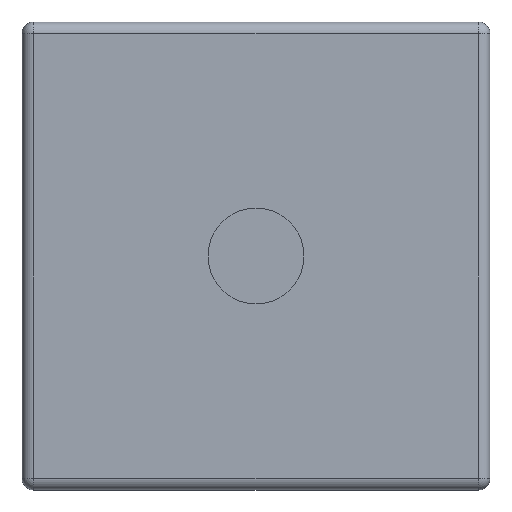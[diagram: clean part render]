
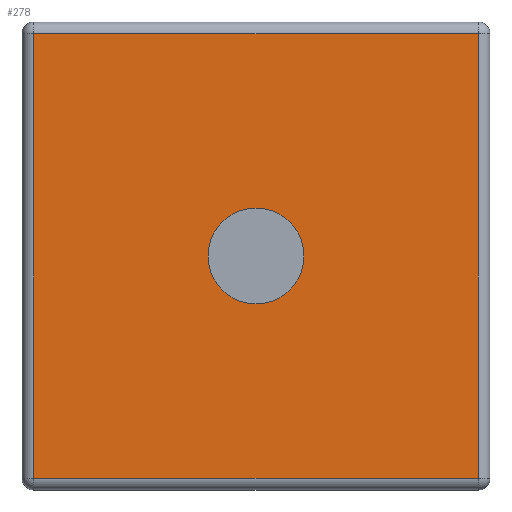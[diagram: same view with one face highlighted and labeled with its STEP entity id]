
A CAD part, top view. The second image highlights one B-rep face of the part: STEP entity #278.
In plain terms, the highlighted planar face has unit normal (0, 0, 1).
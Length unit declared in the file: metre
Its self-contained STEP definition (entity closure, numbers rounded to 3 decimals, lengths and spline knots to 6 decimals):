
#24=CIRCLE('',#320,0.0205);
#75=ORIENTED_EDGE('',*,*,#143,.F.);
#76=ORIENTED_EDGE('',*,*,#144,.T.);
#77=ORIENTED_EDGE('',*,*,#145,.T.);
#78=ORIENTED_EDGE('',*,*,#146,.T.);
#79=ORIENTED_EDGE('',*,*,#147,.T.);
#143=EDGE_CURVE('',#173,#173,#24,.T.);
#144=EDGE_CURVE('',#174,#175,#195,.F.);
#145=EDGE_CURVE('',#175,#176,#196,.T.);
#146=EDGE_CURVE('',#176,#177,#197,.T.);
#147=EDGE_CURVE('',#177,#174,#198,.F.);
#173=VERTEX_POINT('',#490);
#174=VERTEX_POINT('',#492);
#175=VERTEX_POINT('',#493);
#176=VERTEX_POINT('',#495);
#177=VERTEX_POINT('',#497);
#195=LINE('',#491,#215);
#196=LINE('',#494,#216);
#197=LINE('',#496,#217);
#198=LINE('',#498,#218);
#215=VECTOR('',#395,1.);
#216=VECTOR('',#396,1.);
#217=VECTOR('',#397,1.);
#218=VECTOR('',#398,1.);
#227=EDGE_LOOP('',(#75));
#228=EDGE_LOOP('',(#76,#77,#78,#79));
#249=FACE_BOUND('',#227,.T.);
#250=FACE_BOUND('',#228,.T.);
#267=PLANE('',#319);
#278=ADVANCED_FACE('',(#249,#250),#267,.T.);
#319=AXIS2_PLACEMENT_3D('',#488,#391,#392);
#320=AXIS2_PLACEMENT_3D('',#489,#393,#394);
#391=DIRECTION('',(0.,0.,1.));
#392=DIRECTION('',(1.,0.,0.));
#393=DIRECTION('',(0.,0.,1.));
#394=DIRECTION('',(-1.,0.,0.));
#395=DIRECTION('',(1.,0.,0.));
#396=DIRECTION('',(0.,-1.,0.));
#397=DIRECTION('',(1.,0.,0.));
#398=DIRECTION('',(0.,-1.,0.));
#488=CARTESIAN_POINT('',(0.200491,-0.058166,0.008));
#489=CARTESIAN_POINT('',(0.200491,-0.058166,0.008));
#490=CARTESIAN_POINT('',(0.179991,-0.058166,0.008));
#491=CARTESIAN_POINT('',(0.200491,0.036834,0.008));
#492=CARTESIAN_POINT('',(0.295491,0.036834,0.008));
#493=CARTESIAN_POINT('',(0.105491,0.036834,0.008));
#494=CARTESIAN_POINT('',(0.105491,-0.153166,0.008));
#495=CARTESIAN_POINT('',(0.105491,-0.153166,0.008));
#496=CARTESIAN_POINT('',(0.295491,-0.153166,0.008));
#497=CARTESIAN_POINT('',(0.295491,-0.153166,0.008));
#498=CARTESIAN_POINT('',(0.295491,-0.058166,0.008));
